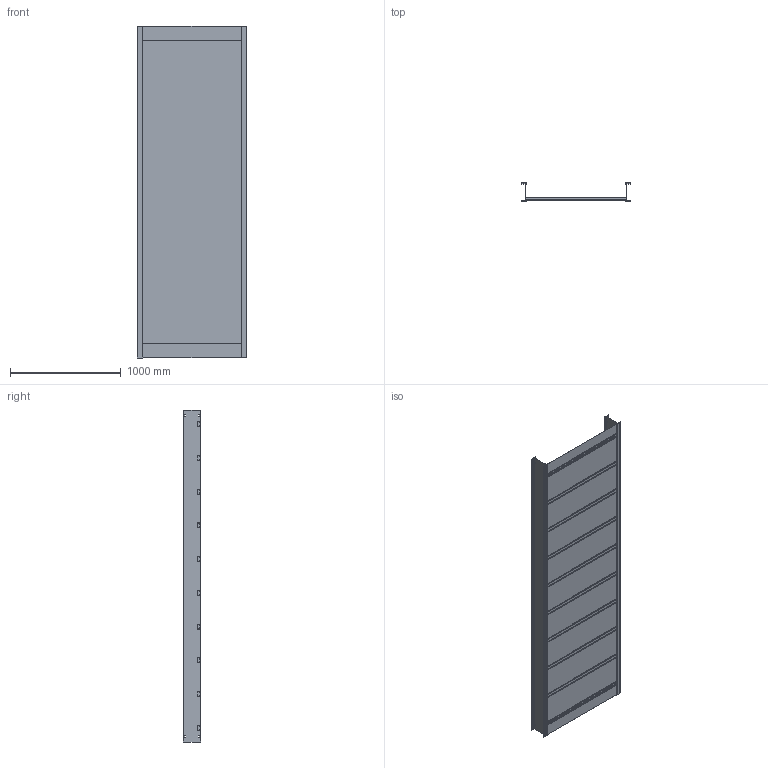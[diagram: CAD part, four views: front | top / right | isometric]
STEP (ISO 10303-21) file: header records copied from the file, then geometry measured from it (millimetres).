
FILE_DESCRIPTION((''),'2;1');
FILE_NAME('AH3636S-3_ASM','2010-02-17T',('erouzier'),(''),'PRO/ENGINEER BY PARAMETRIC TECHNOLOGY CORPORATION, 2008510','PRO/ENGINEER BY PARAMETRIC TECHNOLOGY CORPORATION, 2008510','');
FILE_SCHEMA(('CONFIG_CONTROL_DESIGN'));
Length unit declared in the file: inch
Products named in the file (14): CDS002134-015_AF3; CDS002134-015_AF4; CDS002159L36_AF0; CDS002159L36_AF1; CDS002159L36_AF2; CDS002159L36_AF3; CDS002159L36_AF4; CDS002159L36_AF5; CDS002159L36_AF6; CDS002159L36_AF7; CDS002159L36_AF8; CDS002159L36_AF9; ED04587-015; AH3636S-3_ASM
Assembly tree (13 placements, depth 2):
  AH3636S-3_ASM
    CDS002134-015_AF3
    CDS002134-015_AF4
    CDS002159L36_AF0
    CDS002159L36_AF1
    CDS002159L36_AF2
    CDS002159L36_AF3
    CDS002159L36_AF4
    CDS002159L36_AF5
    CDS002159L36_AF6
    CDS002159L36_AF7
    CDS002159L36_AF8
    CDS002159L36_AF9
    ED04587-015
Bounding box: 988.06 x 158.5 x 3000 mm (x, y, z)
Volume: 7882094.4 mm3; surface area: 13261060.1 mm2
Topology: 13 solids, 14 shells, 387 faces, 1084 edges, 724 vertices
Faces by surface type: plane 273, cylinder 114
Entity records: 12789 total; most frequent: CARTESIAN_POINT 2222, ORIENTED_EDGE 2164, DIRECTION 2140, EDGE_CURVE 1084, VECTOR 856, LINE 856, VERTEX_POINT 724, AXIS2_PLACEMENT_3D 642
